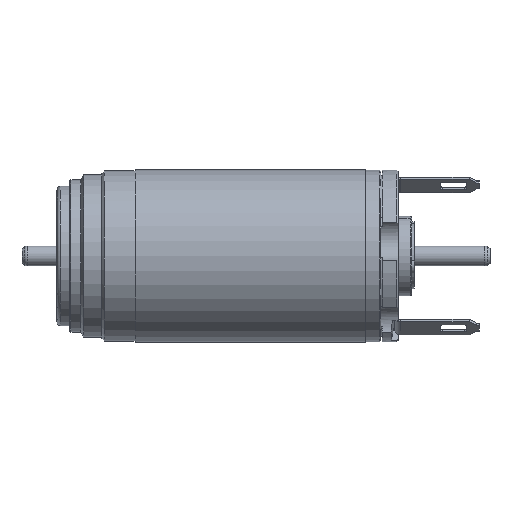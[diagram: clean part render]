
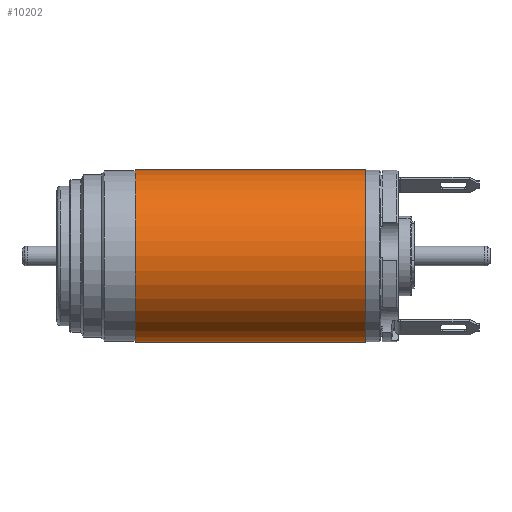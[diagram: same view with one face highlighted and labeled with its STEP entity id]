
A CAD part, top view. The second image highlights one B-rep face of the part: STEP entity #10202.
In plain terms, the highlighted cylindrical face has radius 6.5 mm (diameter 13 mm), a partial arc.
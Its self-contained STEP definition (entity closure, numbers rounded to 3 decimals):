
#4196=CARTESIAN_POINT('',(19.8,0.,0.));
#4197=DIRECTION('',(1.,0.,0.));
#4198=DIRECTION('',(0.,1.,0.));
#4199=AXIS2_PLACEMENT_3D('',#4196,#4197,#4198);
#4204=DIRECTION('',(-1.,0.,0.));
#4205=VECTOR('',#4204,17.3);
#4206=CARTESIAN_POINT('',(19.8,6.5,0.));
#4207=LINE('',#4206,#4205);
#4211=DIRECTION('',(-1.,0.,0.));
#4212=VECTOR('',#4211,17.3);
#4213=CARTESIAN_POINT('',(19.8,-6.5,0.));
#4214=LINE('',#4213,#4212);
#4234=CARTESIAN_POINT('',(2.5,0.,0.));
#4235=DIRECTION('',(1.,0.,0.));
#4236=DIRECTION('',(0.,1.,0.));
#4237=AXIS2_PLACEMENT_3D('',#4234,#4235,#4236);
#5945=CARTESIAN_POINT('',(19.8,6.5,0.));
#5946=CARTESIAN_POINT('',(2.5,6.5,0.));
#5947=VERTEX_POINT('',#5945);
#5948=VERTEX_POINT('',#5946);
#5949=CARTESIAN_POINT('',(19.8,-6.5,0.));
#5950=CARTESIAN_POINT('',(2.5,-6.5,0.));
#5951=VERTEX_POINT('',#5949);
#5952=VERTEX_POINT('',#5950);
#10188=CARTESIAN_POINT('',(-1.05,0.,0.));
#10189=DIRECTION('',(1.,0.,0.));
#10190=DIRECTION('',(0.,-1.,0.));
#10191=AXIS2_PLACEMENT_3D('',#10188,#10189,#10190);
#10192=CYLINDRICAL_SURFACE('',#10191,6.5);
#10194=ORIENTED_EDGE('',*,*,#10193,.F.);
#10195=ORIENTED_EDGE('',*,*,#10177,.T.);
#10197=ORIENTED_EDGE('',*,*,#10196,.T.);
#10199=ORIENTED_EDGE('',*,*,#10198,.F.);
#10200=EDGE_LOOP('',(#10194,#10195,#10197,#10199));
#10201=FACE_OUTER_BOUND('',#10200,.F.);
#10202=ADVANCED_FACE('',(#10201),#10192,.T.);
#4200=CIRCLE('',#4199,6.5);
#4238=CIRCLE('',#4237,6.5);
#10177=EDGE_CURVE('',#5947,#5951,#4200,.T.);
#10193=EDGE_CURVE('',#5947,#5948,#4207,.T.);
#10196=EDGE_CURVE('',#5951,#5952,#4214,.T.);
#10198=EDGE_CURVE('',#5948,#5952,#4238,.T.);
